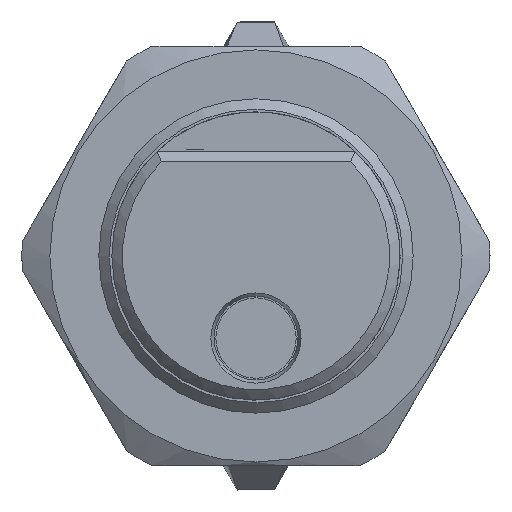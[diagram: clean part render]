
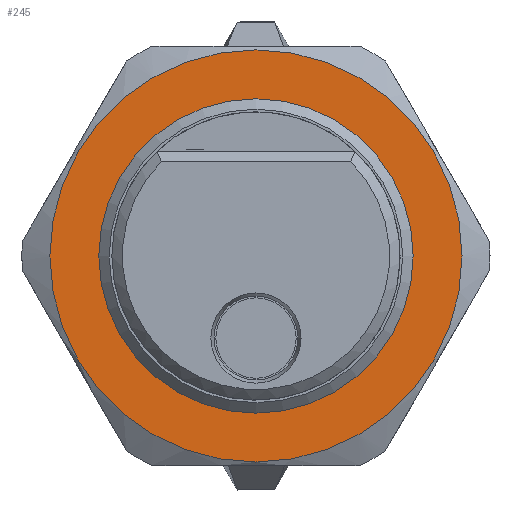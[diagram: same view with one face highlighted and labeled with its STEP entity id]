
A CAD part, left-side view. The second image highlights one B-rep face of the part: STEP entity #245.
In plain terms, the highlighted planar face has unit normal (-1, 0, 0) as drawn and (0, 1, 0) by its records, which use the part's own axes.
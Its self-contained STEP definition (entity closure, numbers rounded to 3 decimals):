
#245 = ADVANCED_FACE( '', ( #415, #416 ), #417, .T. );
#415 = FACE_BOUND( '', #594, .T. );
#416 = FACE_OUTER_BOUND( '', #595, .T. );
#417 = PLANE( '', #596 );
#594 = EDGE_LOOP( '', ( #1051 ) );
#595 = EDGE_LOOP( '', ( #1052 ) );
#596 = AXIS2_PLACEMENT_3D( '', #1053, #1054, #1055 );
#1051 = ORIENTED_EDGE( '', *, *, #1199, .T. );
#1052 = ORIENTED_EDGE( '', *, *, #1173, .F. );
#1053 = CARTESIAN_POINT( '', ( 0., 2., 0. ) );
#1054 = DIRECTION( '', ( 0., 1., 0. ) );
#1055 = DIRECTION( '', ( 0., 0., 1. ) );
#1173 = EDGE_CURVE( '', #1377, #1377, #1378, .T. );
#1199 = EDGE_CURVE( '', #1417, #1417, #1418, .F. );
#1377 = VERTEX_POINT( '', #1677 );
#1378 = CIRCLE( '', #1678, 11.8 );
#1417 = VERTEX_POINT( '', #1833 );
#1418 = CIRCLE( '', #1834, 8.959 );
#1677 = CARTESIAN_POINT( '', ( 0., 2., -11.8 ) );
#1678 = AXIS2_PLACEMENT_3D( '', #2020, #2021, #2022 );
#1833 = CARTESIAN_POINT( '', ( 0., 2., 8.959 ) );
#1834 = AXIS2_PLACEMENT_3D( '', #2056, #2057, #2058 );
#2020 = CARTESIAN_POINT( '', ( 0., 2., 0. ) );
#2021 = DIRECTION( '', ( 0., -1., 0. ) );
#2022 = DIRECTION( '', ( 0., 0., -1. ) );
#2056 = CARTESIAN_POINT( '', ( 0., 2., 0. ) );
#2057 = DIRECTION( '', ( 0., 1., 0. ) );
#2058 = DIRECTION( '', ( 0., 0., 1. ) );
